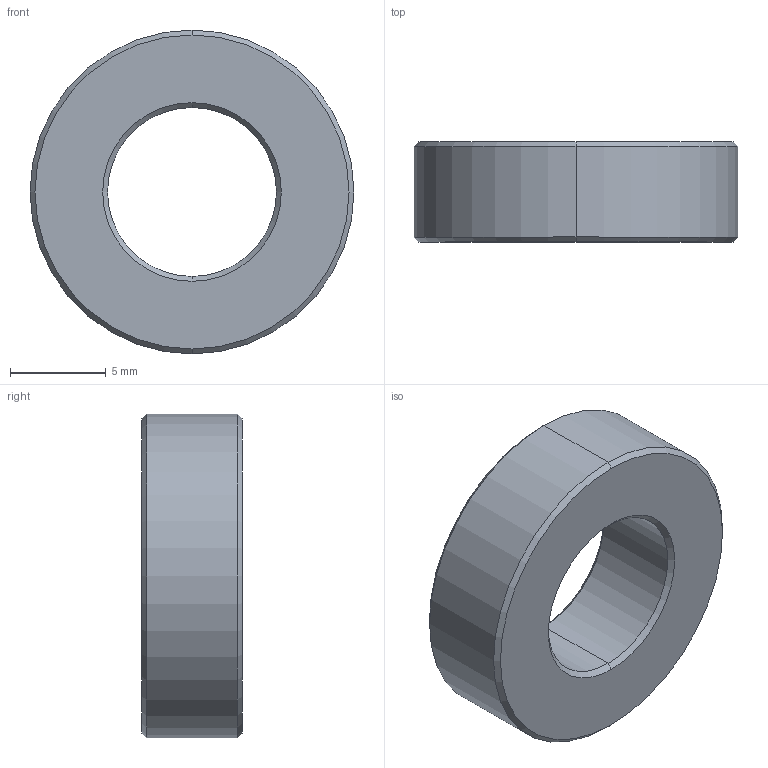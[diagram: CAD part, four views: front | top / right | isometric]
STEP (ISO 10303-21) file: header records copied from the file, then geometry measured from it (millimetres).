
FILE_DESCRIPTION (( 'STEP AP203' ), '1' );
FILE_NAME ('5943005121.STEP', '2020-05-19T12:59:22', ( '' ), ( '' ), 'SwSTEP 2.0', 'SolidWorks 2018', '' );
FILE_SCHEMA (( 'CONFIG_CONTROL_DESIGN' ));
Length unit declared in the file: inch
Products named in the file (1): 5943005121
Bounding box: 16.89 x 5.23 x 16.89 mm (x, y, z)
Volume: 848 mm3; surface area: 724.6 mm2
Topology: 1 solids, 1 shells, 14 faces, 28 edges, 16 vertices
Faces by surface type: cone 8, cylinder 4, plane 2
Entity records: 447 total; most frequent: DIRECTION 74, CARTESIAN_POINT 59, ORIENTED_EDGE 56, AXIS2_PLACEMENT_3D 31, EDGE_CURVE 28, VERTEX_POINT 16, CIRCLE 16, EDGE_LOOP 16
